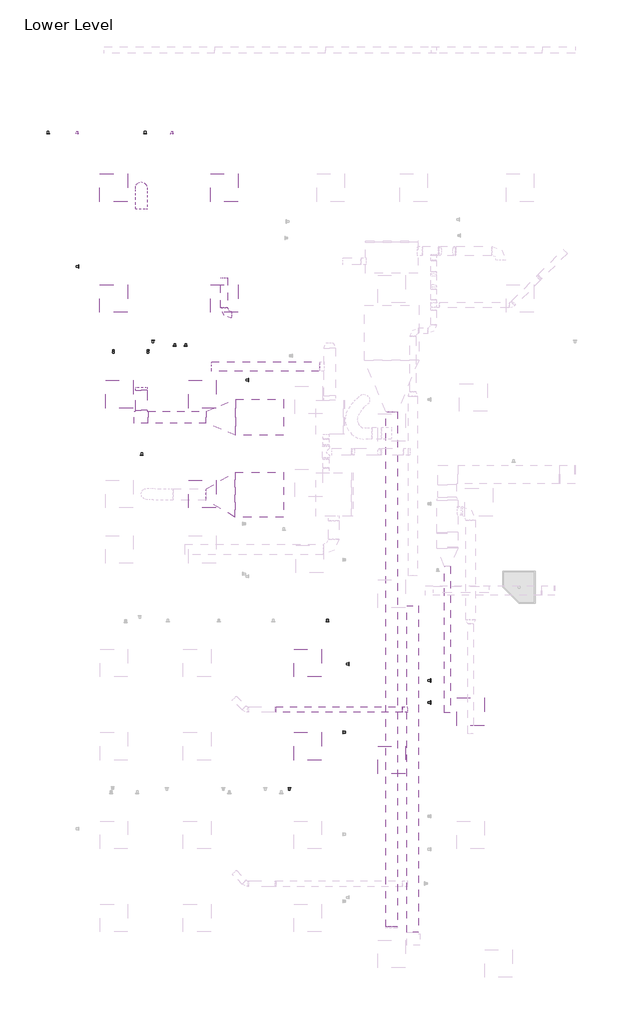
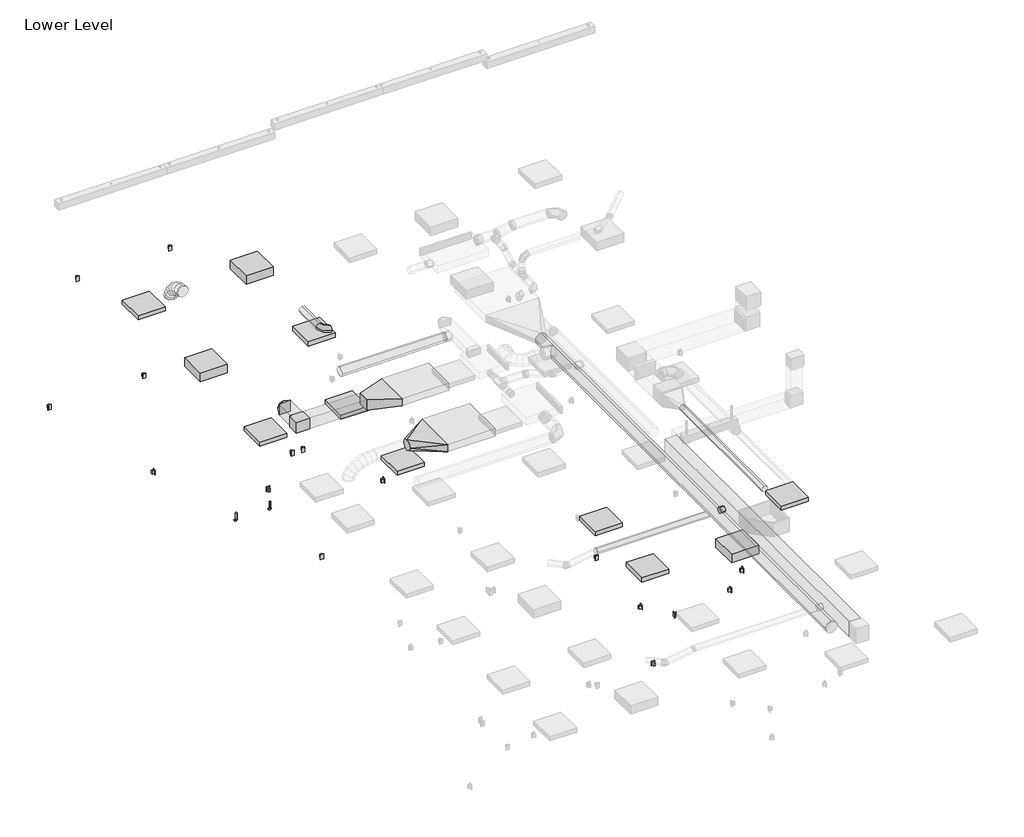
# One storey, part 2 of 5: 13 proxies, 11 duct segments, 11 light fixtures, 6 duct fittings, 3 switching devices, 2 pipe fittings, 2 pipe segments.
"""IFC4 building model written with IfcOpenShell, lengths in millimetres."""

from ifc_helpers import new_model, si_unit, point, frame, frame_2d, origin, place, context, project, spatial, polyline, circle_curve, ellipse_curve, trimmed, segment, composite_curve, outline, extrude, transform, mapped, element, save
from ifc_brep_helpers import plane_surface, cylinder_surface, advanced_brep
from components import duplex_receptacle_countertop_10251bba, rectangular_tee_standard_e1dfbba3, rectangular_transition_angle_45_degree_29acac8a, rectangular_to_round_transition_angle_45_degree_c2b93fa6, rectangular_to_round_transition_angle_60_degree_fd6f6933, round_elbow_1_d_b37ad80b, round_takeoff_standard_7fe2b2d5, troffer_corner_insert_2x2_3_lamp_emergency_29e3a813, troffer_corner_insert_2x2_3lamp_e67c7f8f, bend_pvc_sch_40_dwv_standard_7031e9b3

model = new_model("IFC4")

# Units and contexts
model_context = context("Model", 3, world=origin())
ifc_project = project(units=[si_unit("LENGTHUNIT", "METRE", prefix="MILLI")], contexts=[model_context])

# Site, building, storey
site = spatial("IfcSite", under=ifc_project)
building = spatial("IfcBuilding", under=site)
storey = spatial("IfcBuildingStorey", under=building, Name="Lower Level", Elevation=29972.0)

# Proxies
placement = place(None, origin())
duplex_receptacle_countertop_shape = duplex_receptacle_countertop_10251bba(model_context)
element("IfcBuildingElementProxy", 1, Name="Duplex Receptacle : Countertop", ObjectType="Duplex Receptacle : Countertop", at=placement, inside=storey, context=model_context, shape_type="MappedRepresentation", body=[
    mapped(duplex_receptacle_countertop_shape, transform((-15857.9540331, 89.8945005, 31191.2), x_axis=(-1.0, 0.0, 0.0), y_axis=(0.0, 0.0, 1.0), z_axis=(0.0, 1.0, 0.0))),
])
element("IfcBuildingElementProxy", 2, Name="Duplex Receptacle : Countertop", ObjectType="Duplex Receptacle : Countertop", at=placement, inside=storey, context=model_context, shape_type="MappedRepresentation", body=[
    mapped(duplex_receptacle_countertop_shape, transform((-15020.6577304, 3747.4945005, 31191.2), x_axis=(1.0, 0.0, 0.0), y_axis=(0.0, 0.0, 1.0), z_axis=(0.0, -1.0, 0.0))),
])
element("IfcBuildingElementProxy", 3, Name="Duplex Receptacle : GFCI", ObjectType="Duplex Receptacle : GFCI", at=placement, inside=storey, context=model_context, shape_type="MappedRepresentation", body=[
    mapped(duplex_receptacle_countertop_shape, transform((-18382.2954607, 9811.7445005, 31191.2), x_axis=(1.0, 0.0, 0.0), y_axis=(0.0, 0.0, 1.0), z_axis=(0.0, -1.0, 0.0))),
])
element("IfcBuildingElementProxy", 4, Name="Duplex Receptacle : Standard", ObjectType="Duplex Receptacle : Standard", at=placement, inside=storey, context=model_context, shape_type="MappedRepresentation", body=[
    mapped(duplex_receptacle_countertop_shape, transform((-12749.8454607, 2449.6244898, 30429.2), x_axis=(0.0, 1.0, 0.0), y_axis=(0.0, 0.0, 1.0), z_axis=(1.0, 0.0, 0.0))),
])
element("IfcBuildingElementProxy", 5, Name="Duplex Receptacle : Standard", ObjectType="Duplex Receptacle : Standard", at=placement, inside=storey, context=model_context, shape_type="MappedRepresentation", body=[
    mapped(duplex_receptacle_countertop_shape, transform((-19108.7076778, 7408.2695005, 30429.2), x_axis=(1.0, 0.0, 0.0), y_axis=(0.0, 0.0, 1.0), z_axis=(0.0, -1.0, 0.0))),
])
element("IfcBuildingElementProxy", 6, Name="Duplex Receptacle : Standard", ObjectType="Duplex Receptacle : Standard", at=placement, inside=storey, context=model_context, shape_type="MappedRepresentation", body=[
    mapped(duplex_receptacle_countertop_shape, transform((-20534.2371698, 14482.1695005, 33274.0), x_axis=(-1.0, 0.0, 0.0), y_axis=(0.0, 0.0, -1.0), z_axis=(0.0, -1.0, 0.0))),
])
element("IfcBuildingElementProxy", 7, Name="Duplex Receptacle : Standard", ObjectType="Duplex Receptacle : Standard", at=placement, inside=storey, context=model_context, shape_type="MappedRepresentation", body=[
    mapped(duplex_receptacle_countertop_shape, transform((-18445.3225211, 14482.1695005, 33274.0), x_axis=(-1.0, 0.0, 0.0), y_axis=(0.0, 0.0, -1.0), z_axis=(0.0, -1.0, 0.0))),
])
element("IfcBuildingElementProxy", 8, Name="Duplex Receptacle : Standard", ObjectType="Duplex Receptacle : Standard", at=placement, inside=storey, context=model_context, shape_type="MappedRepresentation", body=[
    mapped(duplex_receptacle_countertop_shape, transform((-19035.1672604, 14482.1695005, 30429.2), x_axis=(1.0, 0.0, 0.0), y_axis=(0.0, 0.0, 1.0), z_axis=(0.0, -1.0, 0.0))),
])
element("IfcBuildingElementProxy", 9, Name="Duplex Receptacle : Standard", ObjectType="Duplex Receptacle : Standard", at=placement, inside=storey, context=model_context, shape_type="MappedRepresentation", body=[
    mapped(duplex_receptacle_countertop_shape, transform((-21171.9927955, 14482.1695005, 30429.2), x_axis=(1.0, 0.0, 0.0), y_axis=(0.0, 0.0, 1.0), z_axis=(0.0, -1.0, 0.0))),
])
element("IfcBuildingElementProxy", 10, Name="Duplex Receptacle : Standard", ObjectType="Duplex Receptacle : Standard", at=placement, inside=storey, context=model_context, shape_type="MappedRepresentation", body=[
    mapped(duplex_receptacle_countertop_shape, transform((-20500.0204607, 11561.2553968, 30429.2), x_axis=(0.0, 1.0, 0.0), y_axis=(0.0, 0.0, 1.0), z_axis=(1.0, 0.0, 0.0))),
])
element("IfcBuildingElementProxy", 11, Name="Duplex Receptacle : Standard", ObjectType="Duplex Receptacle : Standard", at=placement, inside=storey, context=model_context, shape_type="MappedRepresentation", body=[
    mapped(duplex_receptacle_countertop_shape, transform((-18861.9549075, 9935.5695005, 30429.2), x_axis=(-1.0, 0.0, 0.0), y_axis=(0.0, 0.0, 1.0), z_axis=(0.0, 1.0, 0.0))),
])
element("IfcBuildingElementProxy", 12, Name="Duplex Receptacle : Standard", ObjectType="Duplex Receptacle : Standard", at=placement, inside=storey, context=model_context, shape_type="MappedRepresentation", body=[
    mapped(duplex_receptacle_countertop_shape, transform((-14550.0704607, 2812.7275334, 30429.2), x_axis=(0.0, 1.0, 0.0), y_axis=(0.0, 0.0, 1.0), z_axis=(1.0, 0.0, 0.0))),
])
element("IfcBuildingElementProxy", 13, Name="Duplex Receptacle : Standard", ObjectType="Duplex Receptacle : Standard", at=placement, inside=storey, context=model_context, shape_type="MappedRepresentation", body=[
    mapped(duplex_receptacle_countertop_shape, transform((-16756.6954607, 9061.6852176, 30429.2), x_axis=(0.0, 1.0, 0.0), y_axis=(0.0, 0.0, 1.0), z_axis=(1.0, 0.0, 0.0))),
])

# Duct fittings
rectangular_tee_standard_shape = rectangular_tee_standard_e1dfbba3(model_context)
element("IfcDuctFitting", 14, ObjectType="Rectangular Tee : Standard", at=placement, inside=storey, context=model_context, shape_type="MappedRepresentation", body=[
    mapped(rectangular_tee_standard_shape, transform((-19120.4829607, 8243.4520797, 33126.0036612), x_axis=(-0.9999999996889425, 0.0, 2.4942236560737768e-05), y_axis=(0.0, -1.0000000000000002, 0.0), z_axis=(2.4942236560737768e-05, 0.0, 0.9999999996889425))),
])
rectangular_transition_angle_45_degree_shape = rectangular_transition_angle_45_degree_29acac8a(model_context)
element("IfcDuctFitting", 15, ObjectType="Rectangular Transition - Angle : 45 Degree", at=placement, inside=storey, context=model_context, shape_type="MappedRepresentation", body=[
    mapped(rectangular_transition_angle_45_degree_shape, transform((-17043.5807568, 8243.4520797, 33125.965625), x_axis=(-0.9999999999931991, 0.0, 3.6880781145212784e-06), y_axis=(0.0, -1.0000000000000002, 0.0), z_axis=(3.6880781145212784e-06, 0.0, 0.9999999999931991))),
])
rectangular_to_round_transition_angle_45_degree_shape = rectangular_to_round_transition_angle_45_degree_c2b93fa6(model_context)
element("IfcDuctFitting", 16, ObjectType="Rectangular to Round Transition - Angle : 45 Degree", at=placement, inside=storey, context=model_context, shape_type="MappedRepresentation", body=[
    mapped(rectangular_to_round_transition_angle_45_degree_shape, transform((-19120.4829607, 8834.9338087, 33126.0036612), x_axis=(0.0, 1.0, 0.0), y_axis=(-1.0, 0.0, 0.0), z_axis=(0.0, 0.0, 1.0))),
])
rectangular_to_round_transition_angle_60_degree_shape = rectangular_to_round_transition_angle_60_degree_fd6f6933(model_context)
element("IfcDuctFitting", 17, ObjectType="Rectangular to Round Transition - Angle : 60 Degree", at=placement, inside=storey, context=model_context, shape_type="MappedRepresentation", body=[
    mapped(rectangular_to_round_transition_angle_60_degree_shape, transform((-17051.2248289, 6541.2842307, 33125.9381059), x_axis=(-0.9999999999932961, 0.0, 3.661651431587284e-06), y_axis=(0.0, -1.0, 0.0), z_axis=(3.661651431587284e-06, 0.0, 0.9999999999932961))),
])
round_elbow_1_d_shape = round_elbow_1_d_b37ad80b(model_context)
element("IfcDuctFitting", 18, ObjectType="Round Elbow : 1 D", at=placement, inside=storey, context=model_context, shape_type="MappedRepresentation", body=[
    mapped(round_elbow_1_d_shape, transform((-17291.6829607, 10498.3395797, 33324.8), x_axis=(0.0, -1.0, 0.0), y_axis=(0.9961916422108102, 0.0, -0.08719066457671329), z_axis=(0.08719066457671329, 0.0, 0.9961916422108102))),
])
round_takeoff_standard_shape = round_takeoff_standard_7fe2b2d5(model_context)
element("IfcDuctFitting", 19, ObjectType="Round Takeoff : Standard", at=placement, inside=storey, context=model_context, shape_type="MappedRepresentation", body=[
    mapped(round_takeoff_standard_shape, transform((-13265.544811, 1810.3913908, 32918.4), x_axis=(-1.0, 0.0, 0.0), y_axis=(0.0, 1.0, 0.0), z_axis=(0.0, 0.0, -1.0))),
])

# Duct segments
element("IfcDuctSegment", 20, ObjectType="Flex - Round", at=placement, inside=storey, context=model_context, shape_type="AdvancedBrep", body=[
    advanced_brep(
    [(-19247.4829607, 12815.4520797, 33477.2), (-19120.4829607, 12815.4520797, 33350.2), (-18993.4829607, 12815.4520797, 33477.2), (-19120.4829607, 12815.4520797, 33604.2), (-19247.4829607, 12833.3470873, 33477.2), (-19120.4829607, 12822.5920667, 33350.2), (-18993.4829607, 12833.3470873, 33477.2), (-19120.4829607, 12844.102108, 33604.2), (-19247.4829607, 13294.7195005, 33073.975), (-19120.4829607, 13421.7195005, 33073.975), (-18993.4829607, 13294.7195005, 33073.975), (-19120.4829607, 13167.7195005, 33073.975), (-19247.4829607, 12923.4451197, 33461.8298314), (-19120.4829607, 12889.2212464, 33338.8334729), (-18993.4829607, 12923.4451197, 33461.8298314), (-19120.4829607, 12957.6689931, 33584.8261899), (-19247.4829607, 13032.4960357, 33419.0549049), (-19120.4829607, 12974.2697967, 33305.4734094), (-18993.4829607, 13032.4960357, 33419.0549049), (-19120.4829607, 13090.7222748, 33532.6364005), (-19247.4829607, 13133.3768797, 33353.8785896), (-19120.4829607, 13053.4146346, 33254.3401247), (-18993.4829607, 13133.3768797, 33353.8785896), (-19120.4829607, 13213.3391248, 33453.4170545), (-19247.4829607, 13216.8597038, 33271.3042543), (-19120.4829607, 13116.1392002, 33192.2981494), (-18993.4829607, 13216.8597038, 33271.3042543), (-19120.4829607, 13317.5802073, 33350.3103593), (-19247.4829607, 13273.71656, 33176.3352681), (-19120.4829607, 13155.8042904, 33126.0448661), (-18993.4829607, 13273.71656, 33176.3352681), (-19120.4829607, 13391.6288296, 33226.6256702), (-19247.4829607, 13294.7195005, 33099.5018603), (-19120.4829607, 13167.7195005, 33082.4563888), (-18993.4829607, 13294.7195005, 33099.5018603), (-19120.4829607, 13421.7195005, 33116.5473318)],
    [
        (0, 1, circle_curve(frame((-19120.4829607, 12815.4520797, 33477.2), z_axis=(0.0, -1.0, 0.0), x_axis=(-1.0, 0.0, 0.0)), 127.0)),
        (1, 2, circle_curve(frame((-19120.4829607, 12815.4520797, 33477.2), z_axis=(0.0, -1.0, 0.0), x_axis=(-1.0, 0.0, 0.0)), 127.0)),
        (2, 3, circle_curve(frame((-19120.4829607, 12815.4520797, 33477.2), z_axis=(0.0, -1.0, 0.0), x_axis=(-1.0, 0.0, 0.0)), 127.0)),
        (3, 0, circle_curve(frame((-19120.4829607, 12815.4520797, 33477.2), z_axis=(0.0, -1.0, 0.0), x_axis=(-1.0, 0.0, 0.0)), 127.0)),
        (0, 4),
        (4, 5, ellipse_curve(frame((-19120.4829607, 12833.3470873, 33477.2), z_axis=(0.0, -0.996433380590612, 0.08438316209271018), x_axis=(0.0, -0.08438316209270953, -0.996433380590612)), 127.454582, 127.0)),
        (5, 1),
        (5, 6, ellipse_curve(frame((-19120.4829607, 12833.3470873, 33477.2), z_axis=(0.0, -0.996433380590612, 0.08438316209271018), x_axis=(0.0, -0.08438316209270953, -0.996433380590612)), 127.454582, 127.0)),
        (6, 2),
        (6, 7, ellipse_curve(frame((-19120.4829607, 12833.3470873, 33477.2), z_axis=(0.0, -0.996433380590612, 0.08438316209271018), x_axis=(0.0, -0.08438316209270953, -0.996433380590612)), 127.454582, 127.0)),
        (7, 3),
        (7, 4, ellipse_curve(frame((-19120.4829607, 12833.3470873, 33477.2), z_axis=(0.0, -0.996433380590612, 0.08438316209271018), x_axis=(0.0, -0.08438316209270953, -0.996433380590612)), 127.454582, 127.0)),
        (8, 9, circle_curve(frame((-19120.4829607, 13294.7195005, 33073.975), z_axis=(0.0, 0.0, -1.0), x_axis=(-1.0, 0.0, 0.0)), 127.0)),
        (9, 10, circle_curve(frame((-19120.4829607, 13294.7195005, 33073.975), z_axis=(0.0, 0.0, -1.0), x_axis=(-1.0, 0.0, 0.0)), 127.0)),
        (10, 11, circle_curve(frame((-19120.4829607, 13294.7195005, 33073.975), z_axis=(0.0, 0.0, -1.0), x_axis=(-1.0, 0.0, 0.0)), 127.0)),
        (11, 8, circle_curve(frame((-19120.4829607, 13294.7195005, 33073.975), z_axis=(0.0, 0.0, -1.0), x_axis=(-1.0, 0.0, 0.0)), 127.0)),
        (4, 12),
        (12, 13, ellipse_curve(frame((-19120.4829607, 12923.4451197, 33461.8298314), z_axis=(0.0, -0.963400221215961, 0.2680671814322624), x_axis=(0.0, -0.2680671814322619, -0.9634002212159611)), 127.6690162, 127.0)),
        (13, 5),
        (13, 14, ellipse_curve(frame((-19120.4829607, 12923.4451197, 33461.8298314), z_axis=(0.0, -0.963400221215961, 0.2680671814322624), x_axis=(0.0, -0.2680671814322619, -0.9634002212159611)), 127.6690162, 127.0)),
        (14, 6),
        (14, 15, ellipse_curve(frame((-19120.4829607, 12923.4451197, 33461.8298314), z_axis=(0.0, -0.963400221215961, 0.2680671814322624), x_axis=(0.0, -0.2680671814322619, -0.9634002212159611)), 127.6690162, 127.0)),
        (15, 7),
        (15, 12, ellipse_curve(frame((-19120.4829607, 12923.4451197, 33461.8298314), z_axis=(0.0, -0.963400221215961, 0.2680671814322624), x_axis=(0.0, -0.2680671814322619, -0.9634002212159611)), 127.6690162, 127.0)),
        (12, 16),
        (16, 17, ellipse_curve(frame((-19120.4829607, 13032.4960357, 33419.0549049), z_axis=(0.0, -0.8898832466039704, 0.45618834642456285), x_axis=(0.0, -0.4561883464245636, -0.8898832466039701)), 127.6364017, 127.0)),
        (17, 13),
        (17, 18, ellipse_curve(frame((-19120.4829607, 13032.4960357, 33419.0549049), z_axis=(0.0, -0.8898832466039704, 0.45618834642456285), x_axis=(0.0, -0.4561883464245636, -0.8898832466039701)), 127.6364017, 127.0)),
        (18, 14),
        (18, 19, ellipse_curve(frame((-19120.4829607, 13032.4960357, 33419.0549049), z_axis=(0.0, -0.8898832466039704, 0.45618834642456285), x_axis=(0.0, -0.4561883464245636, -0.8898832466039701)), 127.6364017, 127.0)),
        (19, 15),
        (19, 16, ellipse_curve(frame((-19120.4829607, 13032.4960357, 33419.0549049), z_axis=(0.0, -0.8898832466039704, 0.45618834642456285), x_axis=(0.0, -0.4561883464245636, -0.8898832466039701)), 127.6364017, 127.0)),
        (16, 20),
        (20, 21, ellipse_curve(frame((-19120.4829607, 13133.3768797, 33353.8785896), z_axis=(0.0, -0.7796007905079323, 0.6262767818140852), x_axis=(0.0, -0.6262767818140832, -0.7796007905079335)), 127.6787634, 127.0)),
        (21, 17),
        (21, 22, ellipse_curve(frame((-19120.4829607, 13133.3768797, 33353.8785896), z_axis=(0.0, -0.7796007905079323, 0.6262767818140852), x_axis=(0.0, -0.6262767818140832, -0.7796007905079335)), 127.6787634, 127.0)),
        (22, 18),
        (22, 23, ellipse_curve(frame((-19120.4829607, 13133.3768797, 33353.8785896), z_axis=(0.0, -0.7796007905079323, 0.6262767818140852), x_axis=(0.0, -0.6262767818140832, -0.7796007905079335)), 127.6787634, 127.0)),
        (23, 19),
        (23, 20, ellipse_curve(frame((-19120.4829607, 13133.3768797, 33353.8785896), z_axis=(0.0, -0.7796007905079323, 0.6262767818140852), x_axis=(0.0, -0.6262767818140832, -0.7796007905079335)), 127.6787634, 127.0)),
        (20, 24),
        (24, 25, ellipse_curve(frame((-19120.4829607, 13216.8597038, 33271.3042543), z_axis=(0.0, -0.6171865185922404, 0.7868168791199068), x_axis=(0.0, -0.786816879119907, -0.6171865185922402)), 128.0100951, 127.0)),
        (25, 21),
        (25, 26, ellipse_curve(frame((-19120.4829607, 13216.8597038, 33271.3042543), z_axis=(0.0, -0.6171865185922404, 0.7868168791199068), x_axis=(0.0, -0.786816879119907, -0.6171865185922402)), 128.0100951, 127.0)),
        (26, 22),
        (26, 27, ellipse_curve(frame((-19120.4829607, 13216.8597038, 33271.3042543), z_axis=(0.0, -0.6171865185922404, 0.7868168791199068), x_axis=(0.0, -0.786816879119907, -0.6171865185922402)), 128.0100951, 127.0)),
        (27, 23),
        (27, 24, ellipse_curve(frame((-19120.4829607, 13216.8597038, 33271.3042543), z_axis=(0.0, -0.6171865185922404, 0.7868168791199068), x_axis=(0.0, -0.786816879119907, -0.6171865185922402)), 128.0100951, 127.0)),
        (24, 28),
        (28, 29, ellipse_curve(frame((-19120.4829607, 13273.71656, 33176.3352681), z_axis=(0.0, -0.39231439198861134, 0.9198311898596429), x_axis=(0.0, -0.9198311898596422, -0.3923143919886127)), 128.1890317, 127.0)),
        (29, 25),
        (29, 30, ellipse_curve(frame((-19120.4829607, 13273.71656, 33176.3352681), z_axis=(0.0, -0.39231439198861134, 0.9198311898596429), x_axis=(0.0, -0.9198311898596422, -0.3923143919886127)), 128.1890317, 127.0)),
        (30, 26),
        (30, 31, ellipse_curve(frame((-19120.4829607, 13273.71656, 33176.3352681), z_axis=(0.0, -0.39231439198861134, 0.9198311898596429), x_axis=(0.0, -0.9198311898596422, -0.3923143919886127)), 128.1890317, 127.0)),
        (31, 27),
        (31, 28, ellipse_curve(frame((-19120.4829607, 13273.71656, 33176.3352681), z_axis=(0.0, -0.39231439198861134, 0.9198311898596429), x_axis=(0.0, -0.9198311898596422, -0.3923143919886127)), 128.1890317, 127.0)),
        (28, 32),
        (32, 33, ellipse_curve(frame((-19120.4829607, 13294.7195005, 33099.5018603), z_axis=(0.0, -0.13302351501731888, 0.99111288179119), x_axis=(0.0, -0.9911128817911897, -0.13302351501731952)), 128.1387845, 127.0)),
        (33, 29),
        (33, 34, ellipse_curve(frame((-19120.4829607, 13294.7195005, 33099.5018603), z_axis=(0.0, -0.13302351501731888, 0.99111288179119), x_axis=(0.0, -0.9911128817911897, -0.13302351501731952)), 128.1387845, 127.0)),
        (34, 30),
        (34, 35, ellipse_curve(frame((-19120.4829607, 13294.7195005, 33099.5018603), z_axis=(0.0, -0.13302351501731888, 0.99111288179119), x_axis=(0.0, -0.9911128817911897, -0.13302351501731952)), 128.1387845, 127.0)),
        (35, 31),
        (35, 32, ellipse_curve(frame((-19120.4829607, 13294.7195005, 33099.5018603), z_axis=(0.0, -0.13302351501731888, 0.99111288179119), x_axis=(0.0, -0.9911128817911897, -0.13302351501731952)), 128.1387845, 127.0)),
        (32, 8),
        (11, 33),
        (10, 34),
        (9, 35),
    ],
    [
        plane_surface(frame((-19247.4829607, 12815.4520797, 33477.2), z_axis=(0.0, -1.0, 0.0), x_axis=(0.0, 0.0, 1.0))),
        cylinder_surface(frame((-19120.4829607, 12815.4520797, 33477.2), z_axis=(0.0, -1.0, 0.0), x_axis=(-1.0, 0.0, 0.0)), 127.0),
        plane_surface(frame((-19120.4829607, 13167.7195005, 33073.975), z_axis=(0.0, 0.0, -1.0), x_axis=(-1.0, 0.0, 0.0))),
        cylinder_surface(frame((-19120.4829607, 12833.3470873, 33477.2), z_axis=(0.0, -0.9857589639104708, 0.16816439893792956), x_axis=(-1.0, 0.0, 0.0)), 127.0),
        cylinder_surface(frame((-19120.4829607, 12923.4451197, 33461.8298314), z_axis=(0.0, -0.9309445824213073, 0.3651604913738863), x_axis=(-1.0, 0.0, 0.0)), 127.0),
        cylinder_surface(frame((-19120.4829607, 13032.4960357, 33419.0549049), z_axis=(0.0, -0.83994790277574, 0.542667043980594), x_axis=(-1.0, 0.0, 0.0)), 127.0),
        cylinder_surface(frame((-19120.4829607, 13133.3768797, 33353.8785896), z_axis=(0.0, -0.7109646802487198, 0.7032277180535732), x_axis=(-1.0, 0.0, 0.0)), 127.0),
        cylinder_surface(frame((-19120.4829607, 13216.8597038, 33271.3042543), z_axis=(0.0, -0.5136682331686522, 0.8579888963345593), x_axis=(-1.0, 0.0, 0.0)), 127.0),
        cylinder_surface(frame((-19120.4829607, 13273.71656, 33176.3352681), z_axis=(0.0, -0.2636826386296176, 0.9646094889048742), x_axis=(-1.0, 0.0, 0.0)), 127.0),
        cylinder_surface(frame((-19120.4829607, 13294.7195005, 33099.5018603), z_axis=(0.0, 0.0, 1.0), x_axis=(-1.0, 0.0, 0.0)), 127.0),
    ],
    [
        (0, [[1, 2, 3, 4]]),
        (1, [[-1, 5, 6, 7]]),
        (1, [[-2, -7, 8, 9]]),
        (1, [[-3, -9, 10, 11]]),
        (1, [[-4, -11, 12, -5]]),
        (2, [[13, 14, 15, 16]]),
        (3, [[-6, 17, 18, 19]]),
        (3, [[-8, -19, 20, 21]]),
        (3, [[-10, -21, 22, 23]]),
        (3, [[-12, -23, 24, -17]]),
        (4, [[-18, 25, 26, 27]]),
        (4, [[-20, -27, 28, 29]]),
        (4, [[-22, -29, 30, 31]]),
        (4, [[-24, -31, 32, -25]]),
        (5, [[-26, 33, 34, 35]]),
        (5, [[-28, -35, 36, 37]]),
        (5, [[-30, -37, 38, 39]]),
        (5, [[-32, -39, 40, -33]]),
        (6, [[-34, 41, 42, 43]]),
        (6, [[-36, -43, 44, 45]]),
        (6, [[-38, -45, 46, 47]]),
        (6, [[-40, -47, 48, -41]]),
        (7, [[-42, 49, 50, 51]]),
        (7, [[-44, -51, 52, 53]]),
        (7, [[-46, -53, 54, 55]]),
        (7, [[-48, -55, 56, -49]]),
        (8, [[-50, 57, 58, 59]]),
        (8, [[-52, -59, 60, 61]]),
        (8, [[-54, -61, 62, 63]]),
        (8, [[-56, -63, 64, -57]]),
        (9, [[-58, 65, -16, 66]]),
        (9, [[-60, -66, -15, 67]]),
        (9, [[-62, -67, -14, 68]]),
        (9, [[-64, -68, -13, -65]]),
    ],
),
])
element("IfcDuctSegment", 21, ObjectType="Mitered Elbows / Taps", at=placement, inside=storey, context=model_context, shape_type="SweptSolid", body=[
    extrude(outline(polyline([(0.0, -790.575), (0.0, 0.0), (1059.15555, 0.0), (1059.15555, -790.575), (0.0, -790.575)])), frame((-17043.5783571, 8638.7395797, 33041.465625), z_axis=(-2.8398213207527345e-05, 0.0, 0.9999999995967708), x_axis=(0.9999999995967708, 0.0, 2.8398213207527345e-05)), (0.0, 0.0, 1.0), 169.0),
])
element("IfcDuctSegment", 22, ObjectType="Mitered Elbows / Taps", at=placement, inside=storey, context=model_context, shape_type="SweptSolid", body=[
    extrude(outline(polyline([(0.0, -990.6), (0.0, 0.0), (1066.7996217, 0.0), (1066.7996217, -990.6), (0.0, -990.6)])), frame((-17051.2251383, 7036.5842307, 33041.4381059), z_axis=(3.661651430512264e-06, 0.0, 0.9999999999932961), x_axis=(0.9999999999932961, 0.0, -3.661651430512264e-06)), (0.0, 0.0, 1.0), 169.0),
])
element("IfcDuctSegment", 23, ObjectType="Mitered Elbows / Taps", at=placement, inside=storey, context=model_context, shape_type="SweptSolid", body=[
    extrude(outline(polyline([(-13265.544811, 4099.9195005), (-13011.544811, 4099.9195005), (-13011.544811, -3093.2216457), (-13265.544811, -3093.2216457), (-13265.544811, 4099.9195005)])), frame((0.0, 0.0, 32842.2), z_axis=(0.0, 0.0, 1.0), x_axis=(1.0, 0.0, 0.0)), (0.0, 0.0, 1.0), 355.6),
])
element("IfcDuctSegment", 24, ObjectType="Mitered Elbows / Tees", at=placement, inside=storey, context=model_context, shape_type="SweptSolid", body=[
    extrude(outline(polyline([(0.0, -254.0), (0.0, 0.0), (1276.7988832, 0.0), (1276.7988832, -254.0), (0.0, -254.0)])), frame((-17691.2872456, 8116.4520797, 32998.9680138), z_axis=(2.494223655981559e-05, 0.0, 0.9999999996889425), x_axis=(-0.9999999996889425, 0.0, 2.494223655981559e-05)), (0.0, 0.0, 1.0), 254.0),
])
element("IfcDuctSegment", 25, ObjectType="Radius Elbows / Taps", at=placement, inside=storey, context=model_context, shape_type="SweptSolid", body=[
    extrude(outline(polyline([(-18993.4829607, 8395.8520797), (-19247.4829607, 8395.8520797), (-19247.4829607, 8834.9338087), (-18993.4829607, 8834.9338087), (-18993.4829607, 8395.8520797)])), frame((0.0, 0.0, 32999.0036612), z_axis=(0.0, 0.0, 1.0), x_axis=(1.0, 0.0, 0.0)), (0.0, 0.0, 1.0), 254.0),
])
element("IfcDuctSegment", 26, ObjectType="Taps / Short Radius", at=placement, inside=storey, context=model_context, shape_type="SweptSolid", body=[
    extrude(outline(composite_curve([segment(trimmed(circle_curve(frame_2d((9360.8945005, 33121.6)), 101.6), [point((9259.2945005, 33121.6))], [point((9360.8945005, 33223.2))], False, "CARTESIAN"), True, "CONTINUOUS"), segment(trimmed(circle_curve(frame_2d((9360.8945005, 33121.6)), 101.6), [point((9360.8945005, 33223.2))], [point((9462.4945005, 33121.6))], False, "CARTESIAN"), True, "CONTINUOUS"), segment(trimmed(circle_curve(frame_2d((9360.8945005, 33121.6)), 101.6), [point((9462.4945005, 33121.6))], [point((9360.8945005, 33020.0))], False, "CARTESIAN"), True, "CONTINUOUS"), segment(trimmed(circle_curve(frame_2d((9360.8945005, 33121.6)), 101.6), [point((9360.8945005, 33020.0))], [point((9259.2945005, 33121.6))], False, "CARTESIAN"), True, "CONTINUOUS")], self_intersect=False)), frame((-17572.6704607, 0.0, 0.0), z_axis=(1.0, 0.0, 0.0), x_axis=(0.0, 1.0, 0.0)), (0.0, 0.0, 1.0), 2374.0367578),
])
element("IfcDuctSegment", 27, ObjectType="Taps / Short Radius", at=placement, inside=storey, context=model_context, shape_type="SweptSolid", body=[
    extrude(outline(composite_curve([segment(trimmed(circle_curve(frame_2d((33324.8, -17291.6829607)), 76.2), [point((33324.8, -17215.4829607))], [point((33401.0, -17291.6829607))], False, "CARTESIAN"), True, "CONTINUOUS"), segment(trimmed(circle_curve(frame_2d((33324.8, -17291.6829607)), 76.2), [point((33401.0, -17291.6829607))], [point((33324.8, -17367.8829607))], False, "CARTESIAN"), True, "CONTINUOUS"), segment(trimmed(circle_curve(frame_2d((33324.8, -17291.6829607)), 76.2), [point((33324.8, -17367.8829607))], [point((33248.6, -17291.6829607))], False, "CARTESIAN"), True, "CONTINUOUS"), segment(trimmed(circle_curve(frame_2d((33324.8, -17291.6829607)), 76.2), [point((33248.6, -17291.6829607))], [point((33324.8, -17215.4829607))], False, "CARTESIAN"), True, "CONTINUOUS")], self_intersect=False)), frame((0.0, 10650.7395797, 0.0), z_axis=(0.0, 1.0, 0.0), x_axis=(0.0, 0.0, 1.0)), (0.0, 0.0, 1.0), 662.7799208),
])
element("IfcDuctSegment", 28, ObjectType="Taps / Short Radius", at=placement, inside=storey, context=model_context, shape_type="SweptSolid", body=[
    extrude(outline(composite_curve([segment(trimmed(circle_curve(frame_2d((1810.3913908, 32918.4)), 63.5), [point((1746.8913908, 32918.4))], [point((1810.3913908, 32981.9))], False, "CARTESIAN"), True, "CONTINUOUS"), segment(trimmed(circle_curve(frame_2d((1810.3913908, 32918.4)), 63.5), [point((1810.3913908, 32981.9))], [point((1873.8913908, 32918.4))], False, "CARTESIAN"), True, "CONTINUOUS"), segment(trimmed(circle_curve(frame_2d((1810.3913908, 32918.4)), 63.5), [point((1873.8913908, 32918.4))], [point((1810.3913908, 32854.9))], False, "CARTESIAN"), True, "CONTINUOUS"), segment(trimmed(circle_curve(frame_2d((1810.3913908, 32918.4)), 63.5), [point((1810.3913908, 32854.9))], [point((1746.8913908, 32918.4))], False, "CARTESIAN"), True, "CONTINUOUS")], self_intersect=False)), frame((-16147.8899229, 0.0, 0.0), z_axis=(1.0, 0.0, 0.0), x_axis=(0.0, 1.0, 0.0)), (0.0, 0.0, 1.0), 2780.7451119),
])
element("IfcDuctSegment", 29, ObjectType="Taps / Short Radius", at=placement, inside=storey, context=model_context, shape_type="SweptSolid", body=[
    extrude(outline(composite_curve([segment(trimmed(circle_curve(frame_2d((0.0, 127.0)), 127.0), [point((0.0, 0.0))], [point((-127.0, 127.0))], False, "CARTESIAN"), True, "CONTINUOUS"), segment(trimmed(circle_curve(frame_2d((0.0, 127.0)), 127.0), [point((-127.0, 127.0))], [point((0.0, 254.0))], False, "CARTESIAN"), True, "CONTINUOUS"), segment(trimmed(circle_curve(frame_2d((0.0, 127.0)), 127.0), [point((0.0, 254.0))], [point((127.0, 127.0))], False, "CARTESIAN"), True, "CONTINUOUS"), segment(trimmed(circle_curve(frame_2d((0.0, 127.0)), 127.0), [point((127.0, 127.0))], [point((0.0, 0.0))], False, "CARTESIAN"), True, "CONTINUOUS")], self_intersect=False)), frame((-13732.5079607, 8366.6321196, 33125.8344606), z_axis=(0.0, -0.9999999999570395, 9.26936701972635e-06), x_axis=(0.0, -9.26936701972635e-06, -0.9999999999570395)), (0.0, 0.0, 1.0), 11340.8237892),
])
element("IfcDuctSegment", 30, ObjectType="Taps / Short Radius", at=placement, inside=storey, context=model_context, shape_type="SweptSolid", body=[
    extrude(outline(composite_curve([segment(trimmed(circle_curve(frame_2d((33121.6, -12379.8126806)), 63.5), [point((33185.1, -12379.8126806))], [point((33121.6, -12443.3126806))], False, "CARTESIAN"), True, "CONTINUOUS"), segment(trimmed(circle_curve(frame_2d((33121.6, -12379.8126806)), 63.5), [point((33121.6, -12443.3126806))], [point((33058.1, -12379.8126806))], False, "CARTESIAN"), True, "CONTINUOUS"), segment(trimmed(circle_curve(frame_2d((33121.6, -12379.8126806)), 63.5), [point((33058.1, -12379.8126806))], [point((33121.6, -12316.3126806))], False, "CARTESIAN"), True, "CONTINUOUS"), segment(trimmed(circle_curve(frame_2d((33121.6, -12379.8126806)), 63.5), [point((33121.6, -12316.3126806))], [point((33185.1, -12379.8126806))], False, "CARTESIAN"), True, "CONTINUOUS")], self_intersect=False)), frame((0.0, 1740.8945005, 0.0), z_axis=(0.0, 1.0, 0.0), x_axis=(0.0, 0.0, 1.0)), (0.0, 0.0, 1.0), 3219.5481735),
])

# Light fixtures
troffer_corner_insert_2x2_3_lamp_emergency_shape = troffer_corner_insert_2x2_3_lamp_emergency_29e3a813(model_context)
element("IfcLightFixture", 31, ObjectType="Troffer Corner Insert : 2x2 3 Lamp Emergency", at=placement, inside=storey, context=model_context, shape_type="MappedRepresentation", body=[
    mapped(troffer_corner_insert_2x2_3_lamp_emergency_shape, transform((-13605.5079607, 701.0820005, 30276.8), x_axis=(1.0, 0.0, 0.0), y_axis=(0.0, 1.0, 0.0), z_axis=(0.0, 0.0, 1.0))),
])
element("IfcLightFixture", 32, ObjectType="Troffer Corner Insert : 2x2 3 Lamp Emergency", at=placement, inside=storey, context=model_context, shape_type="MappedRepresentation", body=[
    mapped(troffer_corner_insert_2x2_3_lamp_emergency_shape, transform((-19730.0829607, 10856.3195005, 30581.6), x_axis=(1.0, 0.0, 0.0), y_axis=(0.0, 1.0, 0.0), z_axis=(0.0, 0.0, 1.0))),
])
element("IfcLightFixture", 33, ObjectType="Troffer Corner Insert : 2x2 3 Lamp Emergency", at=placement, inside=storey, context=model_context, shape_type="MappedRepresentation", body=[
    mapped(troffer_corner_insert_2x2_3_lamp_emergency_shape, transform((-17291.6829607, 13294.7195005, 30581.6), x_axis=(1.0, 0.0, 0.0), y_axis=(0.0, 1.0, 0.0), z_axis=(0.0, 0.0, 1.0))),
])
troffer_corner_insert_2x2_3lamp_shape = troffer_corner_insert_2x2_3lamp_e67c7f8f(model_context)
element("IfcLightFixture", 34, ObjectType="Troffer Corner Insert : 2x2 3Lamp", at=placement, inside=storey, context=model_context, shape_type="MappedRepresentation", body=[
    mapped(troffer_corner_insert_2x2_3lamp_shape, transform((-11866.4513201, 1763.1195005, 30276.8), x_axis=(1.0, 0.0, 0.0), y_axis=(0.0, 1.0, 0.0), z_axis=(0.0, 0.0, 1.0))),
])
element("IfcLightFixture", 35, ObjectType="Troffer Corner Insert : 2x2 3Lamp", at=placement, inside=storey, context=model_context, shape_type="MappedRepresentation", body=[
    mapped(troffer_corner_insert_2x2_3lamp_shape, transform((-15453.3579607, 1004.2945005, 30276.8), x_axis=(1.0, 0.0, 0.0), y_axis=(0.0, 1.0, 0.0), z_axis=(0.0, 0.0, 1.0))),
])
element("IfcLightFixture", 36, ObjectType="Troffer Corner Insert : 2x2 3Lamp", at=placement, inside=storey, context=model_context, shape_type="MappedRepresentation", body=[
    mapped(troffer_corner_insert_2x2_3lamp_shape, transform((-15453.3579607, 2833.0945005, 30276.8), x_axis=(1.0, 0.0, 0.0), y_axis=(0.0, 1.0, 0.0), z_axis=(0.0, 0.0, 1.0))),
])
element("IfcLightFixture", 37, ObjectType="Troffer Corner Insert : 2x2 3Lamp", at=placement, inside=storey, context=model_context, shape_type="MappedRepresentation", body=[
    mapped(troffer_corner_insert_2x2_3lamp_shape, transform((-17775.8704607, 6554.1945005, 30276.8), x_axis=(1.0, 0.0, 0.0), y_axis=(0.0, 1.0, 0.0), z_axis=(0.0, 0.0, 1.0))),
])
element("IfcLightFixture", 38, ObjectType="Troffer Corner Insert : 2x2 3Lamp", at=placement, inside=storey, context=model_context, shape_type="MappedRepresentation", body=[
    mapped(troffer_corner_insert_2x2_3lamp_shape, transform((-17775.8704607, 8751.2945005, 30276.8), x_axis=(1.0, 0.0, 0.0), y_axis=(0.0, 1.0, 0.0), z_axis=(0.0, 0.0, 1.0))),
])
element("IfcLightFixture", 39, ObjectType="Troffer Corner Insert : 2x2 3Lamp", at=placement, inside=storey, context=model_context, shape_type="MappedRepresentation", body=[
    mapped(troffer_corner_insert_2x2_3lamp_shape, transform((-19604.6704607, 8751.2945005, 30276.8), x_axis=(1.0, 0.0, 0.0), y_axis=(0.0, 1.0, 0.0), z_axis=(0.0, 0.0, 1.0))),
])
element("IfcLightFixture", 40, ObjectType="Troffer Corner Insert : 2x2 3Lamp", at=placement, inside=storey, context=model_context, shape_type="MappedRepresentation", body=[
    mapped(troffer_corner_insert_2x2_3lamp_shape, transform((-19730.0829607, 13294.7195005, 30581.6), x_axis=(1.0, 0.0, 0.0), y_axis=(0.0, 1.0, 0.0), z_axis=(0.0, 0.0, 1.0))),
])
element("IfcLightFixture", 41, ObjectType="Troffer Corner Insert : 2x2 3Lamp", at=placement, inside=storey, context=model_context, shape_type="MappedRepresentation", body=[
    mapped(troffer_corner_insert_2x2_3lamp_shape, transform((-17291.6829607, 10856.3195005, 30581.6), x_axis=(1.0, 0.0, 0.0), y_axis=(0.0, 1.0, 0.0), z_axis=(0.0, 0.0, 1.0))),
])

# Pipe fittings
bend_pvc_sch_40_dwv_standard_shape = bend_pvc_sch_40_dwv_standard_7031e9b3(model_context)
element("IfcPipeFitting", 42, ObjectType="Bend - PVC - Sch 40 - DWV : Standard", at=placement, inside=storey, context=model_context, shape_type="MappedRepresentation", body=[
    mapped(bend_pvc_sch_40_dwv_standard_shape, transform((-18972.699993, 9670.7042449, 30124.4), x_axis=(0.0, 0.0, -1.0), y_axis=(0.0, 1.0, 0.0), z_axis=(1.0, 0.0, 0.0))),
])
element("IfcPipeFitting", 43, ObjectType="Bend - PVC - Sch 40 - DWV : Standard", at=placement, inside=storey, context=model_context, shape_type="MappedRepresentation", body=[
    mapped(bend_pvc_sch_40_dwv_standard_shape, transform((-19734.7969715, 9670.7042449, 30124.4), x_axis=(0.0, 0.0, -1.0), y_axis=(0.0, 1.0, 0.0), z_axis=(1.0, 0.0, 0.0))),
])

# Pipe segments
element("IfcPipeSegment", 44, ObjectType="PVC - DWV", at=placement, inside=storey, context=model_context, shape_type="SweptSolid", body=[
    extrude(outline(composite_curve([segment(trimmed(circle_curve(frame_2d((-18972.699993, 9670.7042449)), 16.66875), [point((-18956.031243, 9670.7042449))], [point((-18972.699993, 9654.0354949))], False, "CARTESIAN"), True, "CONTINUOUS"), segment(trimmed(circle_curve(frame_2d((-18972.699993, 9670.7042449)), 16.66875), [point((-18972.699993, 9654.0354949))], [point((-18989.368743, 9670.7042449))], False, "CARTESIAN"), True, "CONTINUOUS"), segment(trimmed(circle_curve(frame_2d((-18972.699993, 9670.7042449)), 16.66875), [point((-18989.368743, 9670.7042449))], [point((-18972.699993, 9687.3729949))], False, "CARTESIAN"), True, "CONTINUOUS"), segment(trimmed(circle_curve(frame_2d((-18972.699993, 9670.7042449)), 16.66875), [point((-18972.699993, 9687.3729949))], [point((-18956.031243, 9670.7042449))], False, "CARTESIAN"), True, "CONTINUOUS")], self_intersect=False)), frame((0.0, 0.0, 30177.4780625), z_axis=(0.0, 0.0, 1.0), x_axis=(1.0, 0.0, 0.0)), (0.0, 0.0, 1.0), 150.1219375),
])
element("IfcPipeSegment", 45, ObjectType="PVC - DWV", at=placement, inside=storey, context=model_context, shape_type="SweptSolid", body=[
    extrude(outline(composite_curve([segment(trimmed(circle_curve(frame_2d((-19734.7969715, 9670.7042449)), 16.66875), [point((-19718.1282215, 9670.7042449))], [point((-19734.7969715, 9654.0354949))], False, "CARTESIAN"), True, "CONTINUOUS"), segment(trimmed(circle_curve(frame_2d((-19734.7969715, 9670.7042449)), 16.66875), [point((-19734.7969715, 9654.0354949))], [point((-19751.4657215, 9670.7042449))], False, "CARTESIAN"), True, "CONTINUOUS"), segment(trimmed(circle_curve(frame_2d((-19734.7969715, 9670.7042449)), 16.66875), [point((-19751.4657215, 9670.7042449))], [point((-19734.7969715, 9687.3729949))], False, "CARTESIAN"), True, "CONTINUOUS"), segment(trimmed(circle_curve(frame_2d((-19734.7969715, 9670.7042449)), 16.66875), [point((-19734.7969715, 9687.3729949))], [point((-19718.1282215, 9670.7042449))], False, "CARTESIAN"), True, "CONTINUOUS")], self_intersect=False)), frame((0.0, 0.0, 30177.4780625), z_axis=(0.0, 0.0, 1.0), x_axis=(1.0, 0.0, 0.0)), (0.0, 0.0, 1.0), 150.1219375),
])

# Switching devices
element("IfcSwitchingDevice", 46, ObjectType="Lighting Switches : Single Pole", at=placement, inside=storey, context=model_context, shape_type="MappedRepresentation", body=[
    mapped(duplex_receptacle_countertop_shape, transform((-18140.4458061, 9811.7445005, 31191.2), x_axis=(1.0, 0.0, 0.0), y_axis=(0.0, 0.0, 1.0), z_axis=(0.0, -1.0, 0.0))),
])
element("IfcSwitchingDevice", 47, ObjectType="Lighting Switches : Single Pole", at=placement, inside=storey, context=model_context, shape_type="MappedRepresentation", body=[
    mapped(duplex_receptacle_countertop_shape, transform((-12749.8454607, 1966.2528861, 31191.2), x_axis=(0.0, 1.0, 0.0), y_axis=(0.0, 0.0, 1.0), z_axis=(1.0, 0.0, 0.0))),
])
element("IfcSwitchingDevice", 48, ObjectType="Lighting Switches : Single Pole", at=placement, inside=storey, context=model_context, shape_type="MappedRepresentation", body=[
    mapped(duplex_receptacle_countertop_shape, transform((-14673.8954607, 1310.9647267, 31191.2), x_axis=(0.0, -1.0, 0.0), y_axis=(0.0, 0.0, 1.0), z_axis=(-1.0, 0.0, 0.0))),
])

save(model, "model.ifc")
